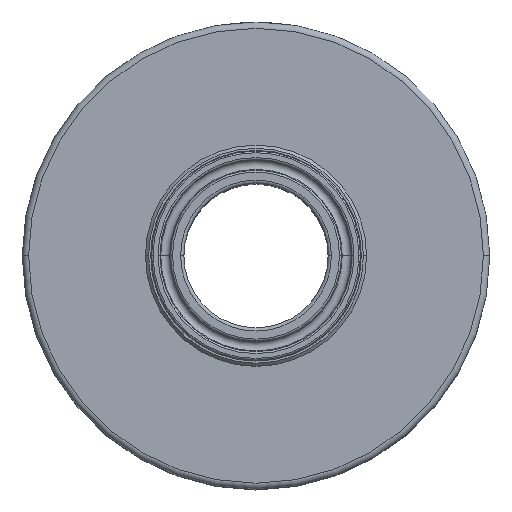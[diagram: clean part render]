
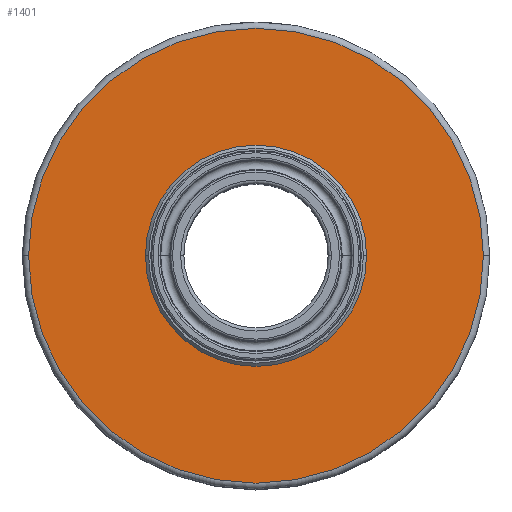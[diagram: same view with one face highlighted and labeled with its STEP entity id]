
A CAD part, top view. The second image highlights one B-rep face of the part: STEP entity #1401.
In plain terms, the highlighted planar face has unit normal (0, 0, 1).
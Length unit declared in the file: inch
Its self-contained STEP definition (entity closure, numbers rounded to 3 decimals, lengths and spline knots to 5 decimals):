
#9 = AXIS2_PLACEMENT_3D ( 'NONE', #767, #768, #769 ) ;
#17 = CIRCLE ( 'NONE', #9, 2.159 ) ;
#480 = CARTESIAN_POINT ( 'NONE',  ( -1.05, 0., -0.84 ) ) ;
#481 = CARTESIAN_POINT ( 'NONE',  ( 1.05, 0., -0.84 ) ) ;
#492 = CARTESIAN_POINT ( 'NONE',  ( -2.159, 0., -0.84 ) ) ;
#495 = CARTESIAN_POINT ( 'NONE',  ( 2.159, 0., -0.84 ) ) ;
#623 = CARTESIAN_POINT ( 'NONE',  ( 0., 0., -0.84 ) ) ;
#624 = DIRECTION ( 'NONE',  ( 0., 0., 1. ) ) ;
#625 = DIRECTION ( 'NONE',  ( 1., 0., 0. ) ) ;
#767 = CARTESIAN_POINT ( 'NONE',  ( 0., 0., -0.84 ) ) ;
#768 = DIRECTION ( 'NONE',  ( 0., 0., 1. ) ) ;
#769 = DIRECTION ( 'NONE',  ( -1., 0., 0. ) ) ;
#1087 = FACE_OUTER_BOUND ( 'NONE', #3768, .T. ) ;
#1089 = DIRECTION ( 'NONE',  ( 0., 0., -1. ) ) ;
#1091 = CARTESIAN_POINT ( 'NONE',  ( 0., 1.05, -0.84 ) ) ;
#1093 = FACE_BOUND ( 'NONE', #3794, .T. ) ;
#1094 = PLANE ( 'NONE',  #1828 ) ;
#1096 = DIRECTION ( 'NONE',  ( -1., 0., 0. ) ) ;
#1401 = ADVANCED_FACE ( 'NONE', ( #1087, #1093 ), #1094, .F. ) ;
#1828 = AXIS2_PLACEMENT_3D ( 'NONE', #1091, #1089, #1096 ) ;
#2069 = EDGE_CURVE ( 'NONE', #3103, #3106, #2264, .T. ) ;
#2070 = EDGE_CURVE ( 'NONE', #3091, #3092, #2267, .T. ) ;
#2100 = EDGE_CURVE ( 'NONE', #3092, #3091, #2212, .T. ) ;
#2130 = EDGE_CURVE ( 'NONE', #3106, #3103, #17, .T. ) ;
#2210 = AXIS2_PLACEMENT_3D ( 'NONE', #623, #624, #625 ) ;
#2212 = CIRCLE ( 'NONE', #2210, 1.05 ) ;
#2258 = AXIS2_PLACEMENT_3D ( 'NONE', #2675, #2676, #2677 ) ;
#2260 = AXIS2_PLACEMENT_3D ( 'NONE', #2672, #2673, #2674 ) ;
#2264 = CIRCLE ( 'NONE', #2260, 2.159 ) ;
#2267 = CIRCLE ( 'NONE', #2258, 1.05 ) ;
#2672 = CARTESIAN_POINT ( 'NONE',  ( 0., 0., -0.84 ) ) ;
#2673 = DIRECTION ( 'NONE',  ( 0., 0., 1. ) ) ;
#2674 = DIRECTION ( 'NONE',  ( -1., 0., 0. ) ) ;
#2675 = CARTESIAN_POINT ( 'NONE',  ( 0., 0., -0.84 ) ) ;
#2676 = DIRECTION ( 'NONE',  ( 0., 0., 1. ) ) ;
#2677 = DIRECTION ( 'NONE',  ( 1., 0., 0. ) ) ;
#3091 = VERTEX_POINT ( 'NONE', #480 ) ;
#3092 = VERTEX_POINT ( 'NONE', #481 ) ;
#3103 = VERTEX_POINT ( 'NONE', #492 ) ;
#3106 = VERTEX_POINT ( 'NONE', #495 ) ;
#3189 = ORIENTED_EDGE ( 'NONE', *, *, #2130, .T. ) ;
#3191 = ORIENTED_EDGE ( 'NONE', *, *, #2069, .T. ) ;
#3768 = EDGE_LOOP ( 'NONE', ( #3191, #3189 ) ) ;
#3794 = EDGE_LOOP ( 'NONE', ( #3811, #3812 ) ) ;
#3811 = ORIENTED_EDGE ( 'NONE', *, *, #2070, .F. ) ;
#3812 = ORIENTED_EDGE ( 'NONE', *, *, #2100, .F. ) ;
